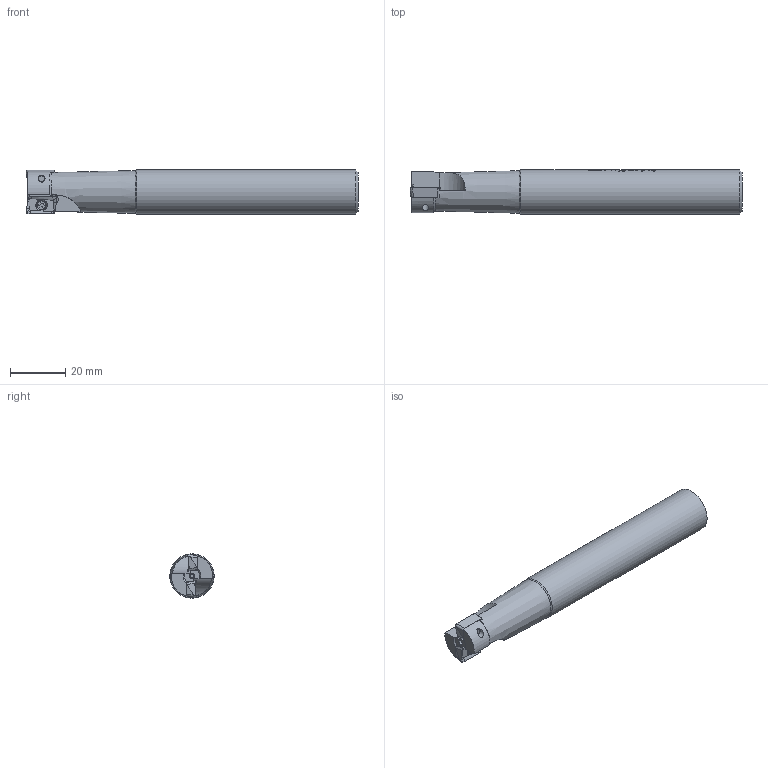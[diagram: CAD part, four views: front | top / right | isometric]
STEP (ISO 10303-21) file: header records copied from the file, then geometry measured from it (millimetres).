
FILE_DESCRIPTION(/* description */ (''),/* implementation_level */ '2;1');
FILE_NAME(/* name */ 'Z:\Проектный отдел\Арина\Токарные инструменты\Фрезы и резцы\BAP300R-C16-16-120-2T\BAP300R-C16-16-120-2T.stp',/* time_stamp */ '2023-05-31T16:34:36+03:00',/* author */ ('user'),/* organization */ (''),/* preprocessor_version */ 'ST-DEVELOPER v18',/* originating_system */ 'Autodesk Inventor 2020',/* authorisation */ '');
FILE_SCHEMA (('AUTOMOTIVE_DESIGN { 1 0 10303 214 3 1 1 }'));
Length unit declared in the file: millimetre
Products named in the file (4): BAP300R-C16-16-120-2T; BAP300R-C10-10-150-1T; Напайка; Болт
Assembly tree (5 placements, depth 2):
  BAP300R-C16-16-120-2T
    BAP300R-C10-10-150-1T
    Напайка  x2
    Болт  x2
Bounding box: 120 x 16 x 16 mm (x, y, z)
Volume: 21789.3 mm3; surface area: 7008.4 mm2
Topology: 5 solids, 5 shells, 705 faces, 1932 edges, 1288 vertices
Faces by surface type: plane 310, bspline 296, cylinder 83, cone 16
Full cylindrical faces by diameter (mm): 2.5 x6, 3.1 x2, 3.3 x2, 4 x1, 16 x1
Entity records: 28232 total; most frequent: CARTESIAN_POINT 13217, ORIENTED_EDGE 3544, DIRECTION 2311, EDGE_CURVE 1772, VERTEX_POINT 1183, LINE 857, VECTOR 857, AXIS2_PLACEMENT_3D 727
